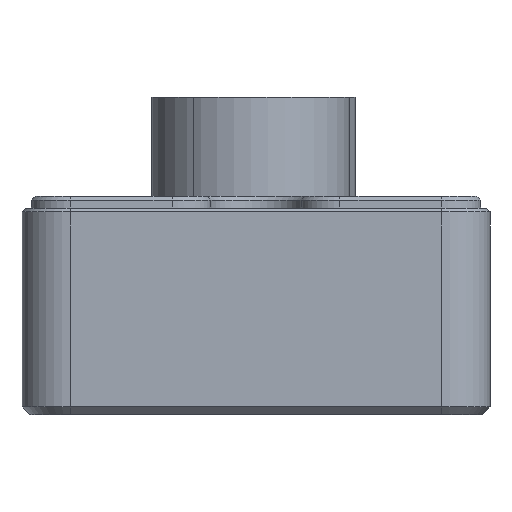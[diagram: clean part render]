
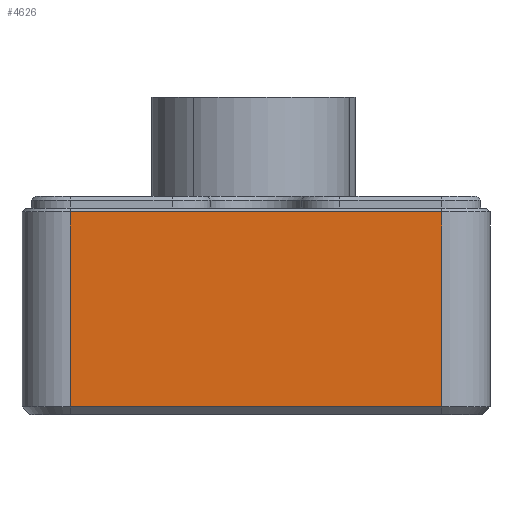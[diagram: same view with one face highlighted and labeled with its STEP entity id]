
A CAD part, left-side view. The second image highlights one B-rep face of the part: STEP entity #4626.
In plain terms, the highlighted planar face has unit normal (-1, 0, 0).
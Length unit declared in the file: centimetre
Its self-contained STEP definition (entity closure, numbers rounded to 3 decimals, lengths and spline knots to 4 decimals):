
#433=VECTOR('',#5736,1.);
#447=VECTOR('',#5776,1.);
#448=VECTOR('',#5780,1.);
#449=VECTOR('',#5781,1.);
#727=LINE('',#7071,#433);
#741=LINE('',#7109,#447);
#742=LINE('',#7113,#448);
#743=LINE('',#7115,#449);
#981=PLANE('',#5007);
#1212=VERTEX_POINT('',#7068);
#1213=VERTEX_POINT('',#7070);
#1223=VERTEX_POINT('',#7110);
#1224=VERTEX_POINT('',#7114);
#1940=EDGE_CURVE('',#1213,#1212,#727,.T.);
#1959=EDGE_CURVE('',#1223,#1212,#741,.T.);
#1961=EDGE_CURVE('',#1224,#1213,#742,.T.);
#1962=EDGE_CURVE('',#1223,#1224,#743,.T.);
#2638=ORIENTED_EDGE('',*,*,#1940,.F.);
#2639=ORIENTED_EDGE('',*,*,#1961,.F.);
#2640=ORIENTED_EDGE('',*,*,#1962,.F.);
#2641=ORIENTED_EDGE('',*,*,#1959,.T.);
#3593=EDGE_LOOP('',(#2638,#2639,#2640,#2641));
#4117=FACE_BOUND('',#3593,.T.);
#4626=ADVANCED_FACE('',(#4117),#981,.T.);
#5007=AXIS2_PLACEMENT_3D('',#7112,#5779,$);
#5736=DIRECTION('',(0.,-1.,0.));
#5776=DIRECTION('',(0.,0.,1.));
#5779=DIRECTION('',(-1.,0.,0.));
#5780=DIRECTION('',(0.,0.,1.));
#5781=DIRECTION('',(0.,1.,0.));
#7068=CARTESIAN_POINT('',(0.,0.62,2.6));
#7070=CARTESIAN_POINT('',(0.,5.38,2.6));
#7071=CARTESIAN_POINT('',(0.,3.,2.6));
#7109=CARTESIAN_POINT('',(0.,0.62,0.));
#7110=CARTESIAN_POINT('',(0.,0.62,0.1));
#7112=CARTESIAN_POINT('',(0.,3.,0.));
#7113=CARTESIAN_POINT('',(0.,5.38,0.));
#7114=CARTESIAN_POINT('',(0.,5.38,0.1));
#7115=CARTESIAN_POINT('',(0.,3.,0.1));
